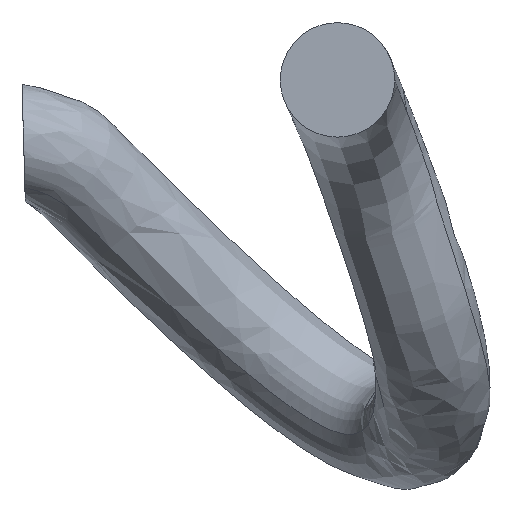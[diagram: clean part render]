
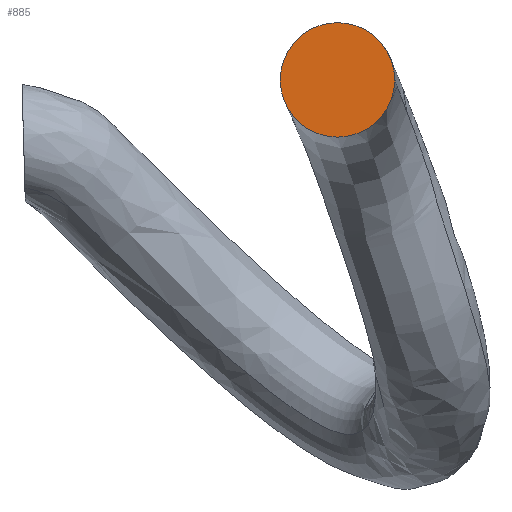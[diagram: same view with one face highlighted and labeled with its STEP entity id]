
A CAD part, front view. The second image highlights one B-rep face of the part: STEP entity #885.
In plain terms, the highlighted planar face has unit normal (0, -1, 0).
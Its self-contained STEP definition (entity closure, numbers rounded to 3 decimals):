
#69 = AXIS2_PLACEMENT_3D ( 'NONE', #1912, #708, #88 ) ;
#88 = DIRECTION ( 'NONE',  ( 0., 0., -1. ) ) ;
#195 = AXIS2_PLACEMENT_3D ( 'NONE', #1720, #2323, #1327 ) ;
#221 = EDGE_CURVE ( 'NONE', #1243, #1188, #533, .T. ) ;
#284 = PLANE ( 'NONE',  #69 ) ;
#324 = CARTESIAN_POINT ( 'NONE',  ( 2171., -75.09, 2267.8 ) ) ;
#377 = ORIENTED_EDGE ( 'NONE', *, *, #1044, .F. ) ;
#533 = CIRCLE ( 'NONE', #872, 40. ) ;
#617 = DIRECTION ( 'NONE',  ( 0., 1., 0. ) ) ;
#708 = DIRECTION ( 'NONE',  ( 0., 1., 0. ) ) ;
#764 = CARTESIAN_POINT ( 'NONE',  ( 2171., -75.09, 2347.8 ) ) ;
#872 = AXIS2_PLACEMENT_3D ( 'NONE', #2055, #617, #999 ) ;
#885 = ADVANCED_FACE ( 'NONE', ( #2109 ), #284, .F. ) ;
#999 = DIRECTION ( 'NONE',  ( 0., 0., 1. ) ) ;
#1004 = ORIENTED_EDGE ( 'NONE', *, *, #221, .F. ) ;
#1044 = EDGE_CURVE ( 'NONE', #1188, #1243, #1668, .T. ) ;
#1188 = VERTEX_POINT ( 'NONE', #324 ) ;
#1243 = VERTEX_POINT ( 'NONE', #764 ) ;
#1327 = DIRECTION ( 'NONE',  ( 0., 0., 1. ) ) ;
#1415 = EDGE_LOOP ( 'NONE', ( #1004, #377 ) ) ;
#1668 = CIRCLE ( 'NONE', #195, 40. ) ;
#1720 = CARTESIAN_POINT ( 'NONE',  ( 2171., -75.09, 2307.8 ) ) ;
#1912 = CARTESIAN_POINT ( 'NONE',  ( 2171., -75.09, 2307.8 ) ) ;
#2055 = CARTESIAN_POINT ( 'NONE',  ( 2171., -75.09, 2307.8 ) ) ;
#2109 = FACE_OUTER_BOUND ( 'NONE', #1415, .T. ) ;
#2323 = DIRECTION ( 'NONE',  ( 0., 1., 0. ) ) ;
